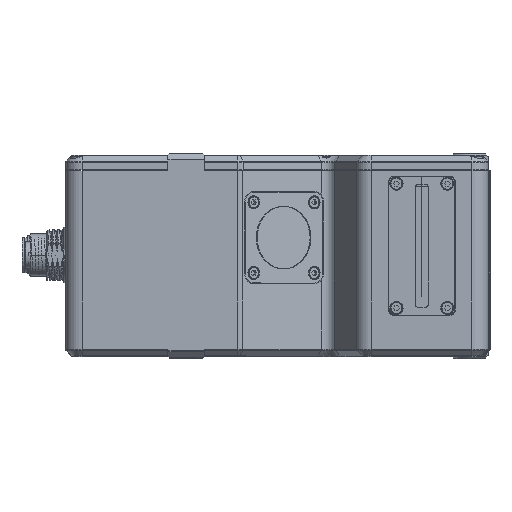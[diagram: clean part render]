
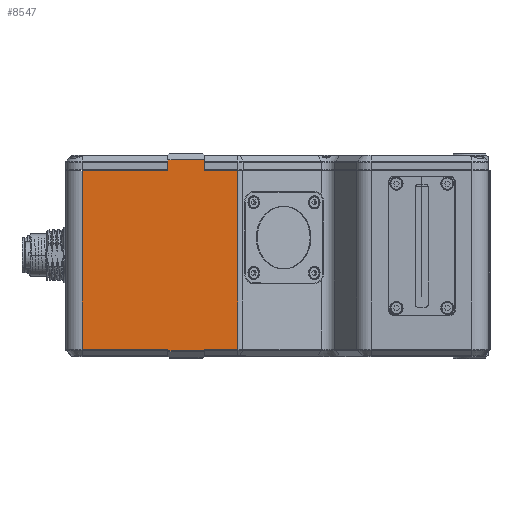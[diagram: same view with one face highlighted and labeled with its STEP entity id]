
A CAD part, top view. The second image highlights one B-rep face of the part: STEP entity #8547.
In plain terms, the highlighted planar face has unit normal (0, 0, 1).
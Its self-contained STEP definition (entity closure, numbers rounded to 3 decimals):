
#3208=DIRECTION('',(0.,1.,0.));
#3209=VECTOR('',#3208,3.2);
#3210=CARTESIAN_POINT('',(-26.,4.3,42.));
#3211=LINE('',#3210,#3209);
#3346=DIRECTION('',(-1.,0.,0.));
#3347=VECTOR('',#3346,10.142);
#3348=CARTESIAN_POINT('',(-15.858,4.3,42.));
#3349=LINE('',#3348,#3347);
#3983=DIRECTION('',(0.,-1.,0.));
#3984=VECTOR('',#3983,0.5);
#3985=CARTESIAN_POINT('',(-26.,-49.793,42.));
#3986=LINE('',#3985,#3984);
#3987=DIRECTION('',(0.,1.,0.));
#3988=VECTOR('',#3987,0.5);
#3989=CARTESIAN_POINT('',(-37.,-50.293,42.));
#3990=LINE('',#3989,#3988);
#3991=DIRECTION('',(1.,0.,0.));
#3992=VECTOR('',#3991,26.);
#3993=CARTESIAN_POINT('',(-63.,4.3,42.));
#3994=LINE('',#3993,#3992);
#3995=DIRECTION('',(0.,1.,0.));
#3996=VECTOR('',#3995,3.2);
#3997=CARTESIAN_POINT('',(-37.,4.3,42.));
#3998=LINE('',#3997,#3996);
#3999=DIRECTION('',(1.,0.,0.));
#4000=VECTOR('',#3999,11.);
#4001=CARTESIAN_POINT('',(-37.,7.5,42.));
#4002=LINE('',#4001,#4000);
#4003=DIRECTION('',(1.,0.,0.));
#4004=VECTOR('',#4003,10.142);
#4005=CARTESIAN_POINT('',(-26.,-49.793,42.));
#4006=LINE('',#4005,#4004);
#4031=DIRECTION('',(0.,1.,0.));
#4032=VECTOR('',#4031,54.093);
#4033=CARTESIAN_POINT('',(-15.858,-49.793,42.));
#4034=LINE('',#4033,#4032);
#5437=DIRECTION('',(1.,0.,0.));
#5438=VECTOR('',#5437,11.);
#5439=CARTESIAN_POINT('',(-37.,-50.293,42.));
#5440=LINE('',#5439,#5438);
#6222=DIRECTION('',(0.,-1.,0.));
#6223=VECTOR('',#6222,54.093);
#6224=CARTESIAN_POINT('',(-63.,4.3,42.));
#6225=LINE('',#6224,#6223);
#6230=DIRECTION('',(1.,0.,0.));
#6231=VECTOR('',#6230,26.);
#6232=CARTESIAN_POINT('',(-63.,-49.793,42.));
#6233=LINE('',#6232,#6231);
#6929=CARTESIAN_POINT('',(-37.,4.3,42.));
#6930=VERTEX_POINT('',#6929);
#6931=CARTESIAN_POINT('',(-63.,4.3,42.));
#6932=VERTEX_POINT('',#6931);
#6959=CARTESIAN_POINT('',(-26.,4.3,42.));
#6960=VERTEX_POINT('',#6959);
#6961=CARTESIAN_POINT('',(-26.,7.5,42.));
#6962=VERTEX_POINT('',#6961);
#7005=CARTESIAN_POINT('',(-15.858,4.3,42.));
#7006=VERTEX_POINT('',#7005);
#7209=CARTESIAN_POINT('',(-26.,-49.793,42.));
#7210=CARTESIAN_POINT('',(-26.,-50.293,42.));
#7211=VERTEX_POINT('',#7209);
#7212=VERTEX_POINT('',#7210);
#7217=CARTESIAN_POINT('',(-15.858,-49.793,42.));
#7218=VERTEX_POINT('',#7217);
#7219=CARTESIAN_POINT('',(-37.,-50.293,42.));
#7220=VERTEX_POINT('',#7219);
#7221=CARTESIAN_POINT('',(-37.,-49.793,42.));
#7222=VERTEX_POINT('',#7221);
#7223=CARTESIAN_POINT('',(-63.,-49.793,42.));
#7224=VERTEX_POINT('',#7223);
#7225=CARTESIAN_POINT('',(-37.,7.5,42.));
#7226=VERTEX_POINT('',#7225);
#8522=CARTESIAN_POINT('',(-68.,-42.5,42.));
#8523=DIRECTION('',(0.,0.,1.));
#8524=DIRECTION('',(1.,0.,0.));
#8525=AXIS2_PLACEMENT_3D('',#8522,#8523,#8524);
#8526=PLANE('',#8525);
#8528=ORIENTED_EDGE('',*,*,#8527,.F.);
#8529=ORIENTED_EDGE('',*,*,#8507,.T.);
#8531=ORIENTED_EDGE('',*,*,#8530,.F.);
#8533=ORIENTED_EDGE('',*,*,#8532,.T.);
#8535=ORIENTED_EDGE('',*,*,#8534,.F.);
#8537=ORIENTED_EDGE('',*,*,#8536,.F.);
#8538=ORIENTED_EDGE('',*,*,#7752,.T.);
#8539=ORIENTED_EDGE('',*,*,#7814,.T.);
#8540=ORIENTED_EDGE('',*,*,#7847,.T.);
#8541=ORIENTED_EDGE('',*,*,#7914,.F.);
#8542=ORIENTED_EDGE('',*,*,#7976,.F.);
#8544=ORIENTED_EDGE('',*,*,#8543,.F.);
#8545=EDGE_LOOP('',(#8528,#8529,#8531,#8533,#8535,#8537,#8538,#8539,#8540,#8541,
#8542,#8544));
#8546=FACE_OUTER_BOUND('',#8545,.F.);
#8547=ADVANCED_FACE('',(#8546),#8526,.T.);
#7752=EDGE_CURVE('',#6932,#6930,#3994,.T.);
#7814=EDGE_CURVE('',#6930,#7226,#3998,.T.);
#7847=EDGE_CURVE('',#7226,#6962,#4002,.T.);
#7914=EDGE_CURVE('',#6960,#6962,#3211,.T.);
#7976=EDGE_CURVE('',#7006,#6960,#3349,.T.);
#8507=EDGE_CURVE('',#7211,#7212,#3986,.T.);
#8527=EDGE_CURVE('',#7211,#7218,#4006,.T.);
#8530=EDGE_CURVE('',#7220,#7212,#5440,.T.);
#8532=EDGE_CURVE('',#7220,#7222,#3990,.T.);
#8534=EDGE_CURVE('',#7224,#7222,#6233,.T.);
#8536=EDGE_CURVE('',#6932,#7224,#6225,.T.);
#8543=EDGE_CURVE('',#7218,#7006,#4034,.T.);
